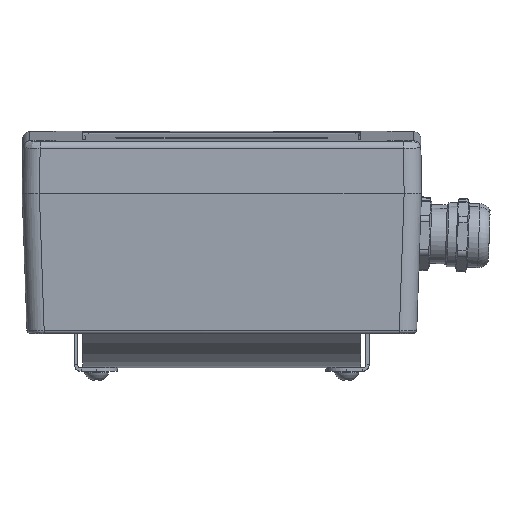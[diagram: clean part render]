
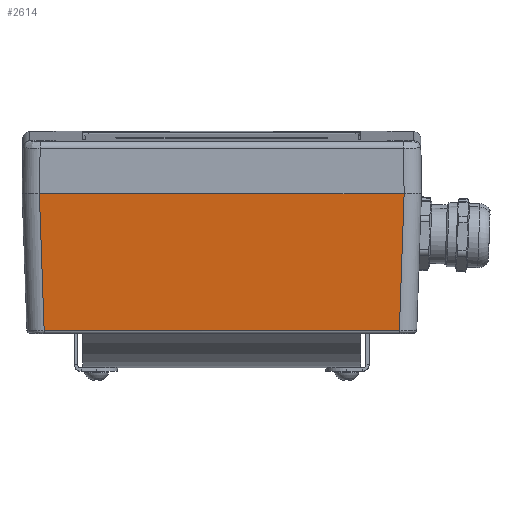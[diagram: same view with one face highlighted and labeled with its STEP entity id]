
A CAD part, top view. The second image highlights one B-rep face of the part: STEP entity #2614.
In plain terms, the highlighted planar face has unit normal (0, -0.07, 0.998).
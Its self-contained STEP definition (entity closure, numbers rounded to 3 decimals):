
#2614=ADVANCED_FACE('',(#10214),#10216,.T.);
#10214=FACE_BOUND('',#10215,.T.);
#10215=EDGE_LOOP('',(#23061,#23062,#23063,#23064,#23065,#23066));
#10216=PLANE('',#10217);
#10217=AXIS2_PLACEMENT_3D('',#10218,#10219,#10220);
#10218=CARTESIAN_POINT('',(-57.5,19.917,173.945));
#10219=DIRECTION('',(0.,-0.07,0.998));
#10220=DIRECTION('',(-1.,0.,0.));
#23061=ORIENTED_EDGE('',*,*,#26996,.F.);
#23062=ORIENTED_EDGE('',*,*,#26997,.T.);
#23063=ORIENTED_EDGE('',*,*,#26927,.F.);
#23064=ORIENTED_EDGE('',*,*,#26858,.F.);
#23065=ORIENTED_EDGE('',*,*,#26908,.F.);
#23066=ORIENTED_EDGE('',*,*,#26998,.T.);
#26858=EDGE_CURVE('',#29561,#29564,#29565,.T.);
#26908=EDGE_CURVE('',#29654,#29561,#29656,.T.);
#26927=EDGE_CURVE('',#29564,#29685,#29686,.T.);
#26996=EDGE_CURVE('',#29798,#29799,#29800,.F.);
#26997=EDGE_CURVE('',#29798,#29685,#29801,.T.);
#26998=EDGE_CURVE('',#29654,#29799,#29802,.T.);
#29561=VERTEX_POINT('',#36060);
#29564=VERTEX_POINT('',#36083);
#29565=LINE('',#36084,#36085);
#29654=VERTEX_POINT('',#36318);
#29656=LINE('',#36323,#36324);
#29685=VERTEX_POINT('',#36396);
#29686=LINE('',#36397,#36398);
#29798=VERTEX_POINT('',#36671);
#29799=VERTEX_POINT('',#36672);
#29800=LINE('',#36673,#36674);
#29801=LINE('',#36676,#36677);
#29802=LINE('',#36679,#36680);
#36060=CARTESIAN_POINT('',(51.122,-19.545,171.186));
#36083=CARTESIAN_POINT('',(-51.122,-19.545,171.186));
#36084=CARTESIAN_POINT('',(51.122,-19.545,171.186));
#36085=VECTOR('',#36086,1.);
#36086=DIRECTION('',(-1.,0.,0.));
#36318=CARTESIAN_POINT('',(52.503,19.917,173.945));
#36323=CARTESIAN_POINT('',(52.503,19.917,173.945));
#36324=VECTOR('',#36325,1.);
#36325=DIRECTION('',(-0.035,-0.997,-0.07));
#36396=CARTESIAN_POINT('',(-52.503,19.917,173.945));
#36397=CARTESIAN_POINT('',(-51.122,-19.545,171.186));
#36398=VECTOR('',#36399,1.);
#36399=DIRECTION('',(-0.035,0.997,0.07));
#36671=CARTESIAN_POINT('',(-52.501,19.917,173.945));
#36672=CARTESIAN_POINT('',(52.501,19.917,173.945));
#36673=CARTESIAN_POINT('',(52.501,19.917,173.945));
#36674=VECTOR('',#36675,1.);
#36675=DIRECTION('',(-1.,0.,0.));
#36676=CARTESIAN_POINT('',(-52.501,19.917,173.945));
#36677=VECTOR('',#36678,1.);
#36678=DIRECTION('',(-1.,0.,0.));
#36679=CARTESIAN_POINT('',(52.503,19.917,173.945));
#36680=VECTOR('',#36681,1.);
#36681=DIRECTION('',(-1.,0.,0.));
